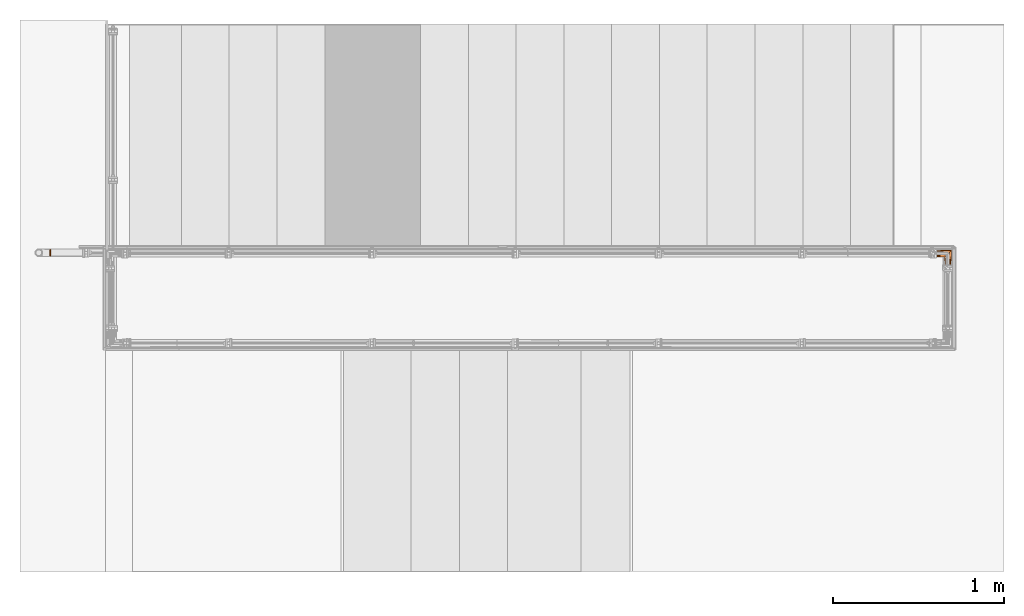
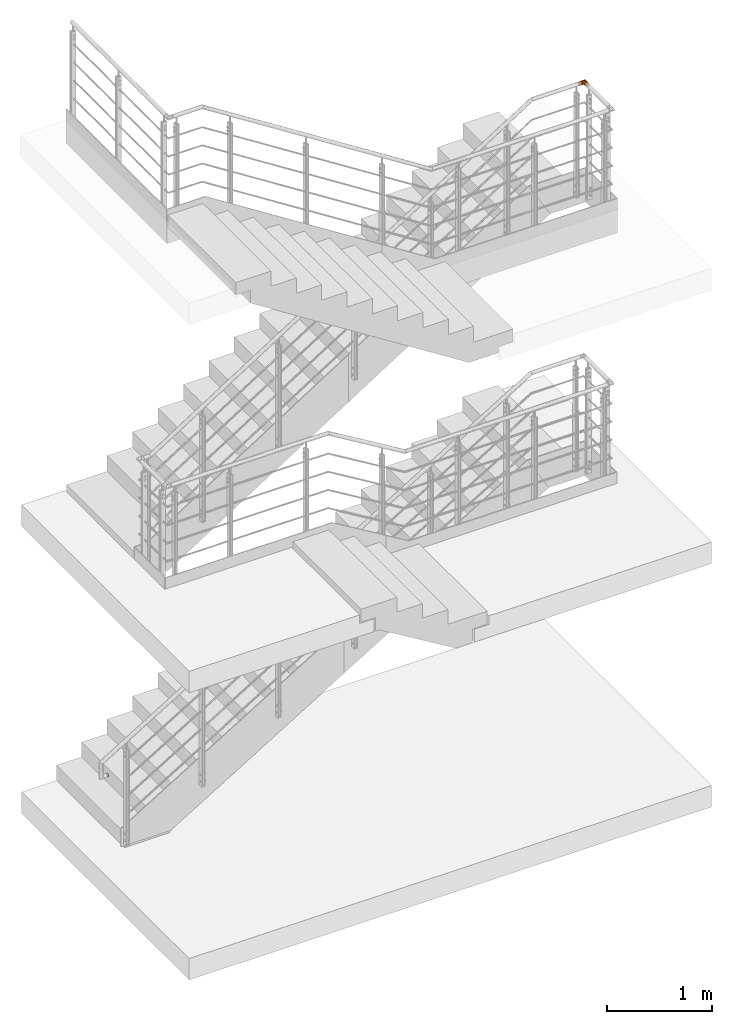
# One storey, part 97 of 98: 2 proxies.
"""IFC2X3 building model written with IfcOpenShell, lengths in millimetres."""

from ifc_helpers import new_model, entity, si_unit, converted_unit, origin_with_axes, place, context, project, spatial, faceted_brep, material, element, save


model = new_model("IFC2X3")

# Units and contexts
model_context = context("Model", 3, precision=1e-09, world=origin_with_axes())
ifc_project = project(units=[si_unit("LENGTHUNIT", "METRE", prefix="MILLI"), si_unit("AREAUNIT", "SQUARE_METRE"), si_unit("VOLUMEUNIT", "CUBIC_METRE"), converted_unit("PLANEANGLEUNIT", "DEGREE", entity("IfcPlaneAngleMeasure", 0.01745329), si_unit("PLANEANGLEUNIT", "RADIAN"), dimensions=[0, 0, 0, 0, 0, 0, 0])], contexts=[model_context])

# Site, building, storey
site_placement = place(None, origin_with_axes())
site = spatial("IfcSite", under=ifc_project, at=site_placement, Name="Maybachstra?e 2, 71563 Affalterbach", CompositionType="ELEMENT")
building_placement = place(site_placement, origin_with_axes())
building = spatial("IfcBuilding", under=site, at=building_placement, Name="Struktur 1", CompositionType="ELEMENT")
storey_placement = place(building_placement, origin_with_axes())
storey = spatial("IfcBuildingStorey", under=building, at=storey_placement, Name="Default Storey", CompositionType="ELEMENT", Elevation=0.0)

# Proxies
ifc_material = material(Name="1.4301")
proxy_1_placement = place(None, origin_with_axes())
element("IfcBuildingElementProxy", 1, at=proxy_1_placement, inside=storey, material=ifc_material, ObjectType="-", context=model_context, shape_type="Brep", body=[
    faceted_brep([(12187.232157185, -63.669869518, 7165.561275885), (12167.232157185, -63.669869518, 7165.561275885), (12167.232157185, -63.669869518, 7157.038724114), (12187.232157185, -63.669869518, 7157.038724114), (12167.232157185, -30.027927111, 7149.360170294), (12167.232157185, -36.691126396, 7144.046446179), (12167.232157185, -45.0, 7142.15), (12167.232157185, -53.308873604, 7144.046446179), (12167.232157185, -59.972072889, 7149.360170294), (12167.232157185, -59.972072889, 7173.239829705), (12167.232157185, -53.308873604, 7178.55355382), (12167.232157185, -45.0, 7180.45), (12167.232157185, -36.691126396, 7178.55355382), (12167.232157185, -30.027927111, 7173.239829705), (12167.232157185, -26.330130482, 7165.561275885), (12167.232157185, -26.330130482, 7157.038724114), (12187.232157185, -59.972072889, 7173.239829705), (12187.232157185, -30.027927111, 7173.239829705), (12187.232157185, -36.691126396, 7178.55355382), (12187.232157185, -45.0, 7180.45), (12187.232157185, -53.308873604, 7178.55355382), (12187.232157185, -59.972072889, 7149.360170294), (12187.232157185, -53.308873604, 7144.046446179), (12187.232157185, -45.0, 7142.15), (12187.232157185, -36.691126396, 7144.046446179), (12187.232157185, -30.027927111, 7149.360170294), (12187.232157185, -26.330130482, 7157.038724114), (12187.232157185, -26.330130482, 7165.561275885)], [[[0, 1, 2, 3]], [[4, 5, 6, 7, 8, 2, 1, 9, 10, 11, 12, 13, 14, 15]], [[1, 0, 16, 9]], [[17, 18, 19, 20, 16, 0, 3, 21, 22, 23, 24, 25, 26, 27]], [[3, 2, 8, 21]], [[9, 16, 20, 10]], [[21, 8, 7, 22]], [[10, 20, 19, 11]], [[22, 7, 6, 23]], [[11, 19, 18, 12]], [[23, 6, 5, 24]], [[17, 13, 12, 18]], [[13, 17, 27, 14]], [[24, 5, 4, 25]], [[14, 27, 26, 15]], [[25, 4, 15, 26]]]),
    faceted_brep([(12251.824805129, -24.207352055, 7165.435914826), (12250.618403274, -25.413753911, 7169.412888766), (12248.659312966, -27.372844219, 7173.07808894), (12246.022820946, -30.009336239, 7176.290663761), (12239.145045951, -36.887111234, 7180.886246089), (12231.032157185, -45.0, 7182.5), (12222.919268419, -53.112888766, 7180.886246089), (12216.041493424, -59.990663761, 7176.290663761), (12213.405001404, -62.627155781, 7173.07808894), (12211.445911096, -64.586246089, 7169.412888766), (12210.23950924, -65.792647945, 7165.435914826), (12209.832157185, -66.2, 7161.3), (12210.23950924, -65.792647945, 7157.164085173), (12211.445911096, -64.586246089, 7153.187111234), (12213.405001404, -62.627155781, 7149.52191106), (12216.041493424, -59.990663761, 7146.309336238), (12222.919268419, -53.112888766, 7141.71375391), (12231.032157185, -45.0, 7140.1), (12239.145045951, -36.887111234, 7141.71375391), (12246.022820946, -30.009336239, 7146.309336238), (12248.659312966, -27.372844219, 7149.52191106), (12250.618403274, -25.413753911, 7153.187111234), (12251.824805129, -24.207352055, 7157.164085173), (12252.232157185, -23.8, 7161.3), (12187.232157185, -49.407727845, 7182.036729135), (12187.232157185, -45.0, 7140.1), (12187.232157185, -57.461047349, 7178.45116028), (12187.232157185, -40.592272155, 7182.036729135), (12187.232157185, -53.622816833, 7141.932836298), (12187.232157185, -60.7546703, 7147.114431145), (12187.232157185, -65.162398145, 7154.748839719), (12187.232157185, -66.083864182, 7163.516003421), (12187.232157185, -63.35973856, 7171.9), (12187.232157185, -32.538952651, 7178.45116028), (12187.232157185, -26.64026144, 7171.9), (12187.232157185, -23.916135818, 7163.516003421), (12187.232157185, -24.837601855, 7154.748839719), (12187.232157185, -29.2453297, 7147.114431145), (12187.232157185, -36.377183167, 7141.932836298)], [[[0, 1, 2, 3, 4, 5, 6, 7, 8, 9, 10, 11, 12, 13, 14, 15, 16, 17, 18, 19, 20, 21, 22, 23]], [[6, 5, 24]], [[17, 16, 25]], [[26, 6, 24]], [[24, 5, 27]], [[18, 17, 25]], [[25, 16, 28]], [[7, 6, 26]], [[28, 29, 30, 31, 32, 26, 24, 27, 33, 34, 35, 36, 37, 38, 25]], [[5, 4, 27]], [[38, 18, 25]], [[16, 15, 28]], [[8, 7, 32]], [[32, 7, 26]], [[27, 4, 33]], [[19, 18, 38]], [[11, 10, 31]], [[28, 15, 29]], [[9, 8, 32]], [[10, 9, 31]], [[4, 3, 33]], [[37, 19, 38]], [[31, 12, 11]], [[13, 12, 30]], [[14, 13, 30]], [[15, 14, 29]], [[31, 9, 32]], [[33, 3, 34]], [[20, 19, 37]], [[30, 12, 31]], [[29, 14, 30]], [[3, 2, 34]], [[36, 20, 37]], [[2, 1, 34]], [[21, 20, 36]], [[34, 1, 35]], [[22, 21, 36]], [[35, 22, 36]], [[1, 0, 35]], [[0, 23, 35]], [[35, 23, 22]]]),
    faceted_brep([(12249.702026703, -108.8, 7157.038724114), (12249.702026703, -88.8, 7157.038724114), (12249.702026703, -88.8, 7165.561275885), (12249.702026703, -108.8, 7165.561275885), (12246.004230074, -88.8, 7173.239829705), (12246.004230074, -108.8, 7173.239829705), (12216.060084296, -88.8, 7173.239829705), (12222.723283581, -88.8, 7178.55355382), (12231.032157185, -88.8, 7180.45), (12239.341030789, -88.8, 7178.55355382), (12246.004230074, -88.8, 7149.360170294), (12239.341030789, -88.8, 7144.046446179), (12231.032157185, -88.8, 7142.15), (12222.723283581, -88.8, 7144.046446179), (12216.060084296, -88.8, 7149.360170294), (12212.362287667, -88.8, 7157.038724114), (12212.362287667, -88.8, 7165.561275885), (12246.004230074, -108.8, 7149.360170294), (12216.060084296, -108.8, 7149.360170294), (12222.723283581, -108.8, 7144.046446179), (12231.032157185, -108.8, 7142.15), (12239.341030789, -108.8, 7144.046446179), (12239.341030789, -108.8, 7178.55355382), (12231.032157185, -108.8, 7180.45), (12222.723283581, -108.8, 7178.55355382), (12216.060084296, -108.8, 7173.239829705), (12212.362287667, -108.8, 7165.561275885), (12212.362287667, -108.8, 7157.038724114)], [[[0, 1, 2, 3]], [[3, 2, 4, 5]], [[6, 7, 8, 9, 4, 2, 1, 10, 11, 12, 13, 14, 15, 16]], [[1, 0, 17, 10]], [[18, 19, 20, 21, 17, 0, 3, 5, 22, 23, 24, 25, 26, 27]], [[5, 4, 9, 22]], [[10, 17, 21, 11]], [[20, 12, 11, 21]], [[22, 9, 8, 23]], [[12, 20, 19, 13]], [[13, 19, 18, 14]], [[23, 8, 7, 24]], [[6, 25, 24, 7]], [[16, 26, 25, 6]], [[15, 27, 26, 16]], [[14, 18, 27, 15]]]),
    faceted_brep([(12231.032157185, -88.8, 7140.1), (12231.032157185, -45.0, 7140.1), (12239.654974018, -88.8, 7141.932836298), (12246.022820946, -30.009336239, 7146.309336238), (12246.786827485, -88.8, 7147.114431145), (12218.571109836, -88.8, 7178.45116028), (12212.672418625, -88.8, 7171.9), (12209.948293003, -88.8, 7163.516003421), (12210.869759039, -88.8, 7154.748839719), (12215.277486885, -88.8, 7147.114431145), (12222.409340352, -88.8, 7141.932836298), (12251.19455533, -88.8, 7154.748839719), (12252.116021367, -88.8, 7163.516003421), (12249.391895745, -88.8, 7171.9), (12243.493204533, -88.8, 7178.45116028), (12235.43988503, -88.8, 7182.036729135), (12226.62442934, -88.8, 7182.036729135), (12222.919268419, -53.112888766, 7141.71375391), (12210.23950924, -65.792647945, 7165.435914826), (12211.445911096, -64.586246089, 7169.412888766), (12213.405001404, -62.627155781, 7173.07808894), (12216.041493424, -59.990663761, 7176.290663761), (12222.919268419, -53.112888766, 7180.886246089), (12231.032157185, -45.0, 7182.5), (12239.145045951, -36.887111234, 7180.886246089), (12246.022820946, -30.009336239, 7176.290663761), (12248.659312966, -27.372844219, 7173.07808894), (12250.618403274, -25.413753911, 7169.412888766), (12251.824805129, -24.207352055, 7165.435914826), (12252.232157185, -23.8, 7161.3), (12251.824805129, -24.207352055, 7157.164085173), (12250.618403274, -25.413753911, 7153.187111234), (12248.659312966, -27.372844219, 7149.52191106), (12239.145045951, -36.887111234, 7141.71375391), (12216.041493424, -59.990663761, 7146.309336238), (12213.405001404, -62.627155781, 7149.52191106), (12211.445911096, -64.586246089, 7153.187111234), (12210.23950924, -65.792647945, 7157.164085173), (12209.832157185, -66.2, 7161.3)], [[[0, 1, 2]], [[2, 3, 4]], [[5, 6, 7, 8, 9, 10, 0, 2, 4, 11, 12, 13, 14, 15, 16]], [[17, 1, 0]], [[18, 19, 20, 21, 22, 23, 24, 25, 26, 27, 28, 29, 30, 31, 32, 3, 33, 1, 17, 34, 35, 36, 37, 38]], [[1, 33, 2]], [[33, 3, 2]], [[32, 31, 11]], [[3, 32, 4]], [[10, 17, 0]], [[24, 23, 15]], [[15, 23, 16]], [[23, 22, 16]], [[30, 29, 12]], [[31, 30, 11]], [[4, 32, 11]], [[34, 17, 10]], [[14, 24, 15]], [[12, 29, 28]], [[16, 22, 5]], [[11, 30, 12]], [[9, 34, 10]], [[25, 24, 14]], [[26, 25, 13]], [[27, 26, 13]], [[28, 27, 12]], [[22, 21, 5]], [[35, 34, 9]], [[13, 25, 14]], [[12, 27, 13]], [[5, 21, 6]], [[8, 35, 9]], [[21, 20, 6]], [[7, 37, 8]], [[36, 35, 8]], [[20, 19, 6]], [[38, 37, 7]], [[37, 36, 8]], [[18, 38, 7]], [[6, 19, 7]], [[7, 19, 18]]]),
])
proxy_2_placement = place(None, origin_with_axes())
element("IfcBuildingElementProxy", 2, at=proxy_2_placement, inside=storey, material=ifc_material, ObjectType="-", context=model_context, shape_type="Brep", body=[
    faceted_brep([(6972.280157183, -40.0, 894.99132919), (6974.280157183, -40.0, 894.99132919), (6974.280157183, -48.622816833, 896.824165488), (6972.280157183, -48.622816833, 896.824165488), (6974.280157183, -21.64026144, 926.79132919), (6974.280157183, -27.538952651, 933.342489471), (6974.280157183, -35.592272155, 936.928058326), (6974.280157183, -44.407727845, 936.928058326), (6974.280157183, -52.461047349, 933.342489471), (6974.280157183, -58.35973856, 926.79132919), (6974.280157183, -61.083864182, 918.407332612), (6974.280157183, -60.162398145, 909.64016891), (6974.280157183, -55.7546703, 902.005760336), (6974.280157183, -31.377183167, 896.824165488), (6974.280157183, -24.2453297, 902.005760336), (6974.280157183, -19.837601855, 909.64016891), (6974.280157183, -18.916135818, 918.407332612), (6972.280157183, -31.377183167, 896.824165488), (6972.280157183, -52.461047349, 933.342489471), (6972.280157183, -44.407727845, 936.928058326), (6972.280157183, -35.592272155, 936.928058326), (6972.280157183, -27.538952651, 933.342489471), (6972.280157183, -21.64026144, 926.79132919), (6972.280157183, -18.916135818, 918.407332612), (6972.280157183, -19.837601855, 909.64016891), (6972.280157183, -24.2453297, 902.005760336), (6972.280157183, -55.7546703, 902.005760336), (6972.280157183, -60.162398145, 909.64016891), (6972.280157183, -61.083864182, 918.407332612), (6972.280157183, -58.35973856, 926.79132919)], [[[0, 1, 2, 3]], [[4, 5, 6, 7, 8, 9, 10, 11, 12, 2, 1, 13, 14, 15, 16]], [[1, 0, 17, 13]], [[18, 19, 20, 21, 22, 23, 24, 25, 17, 0, 3, 26, 27, 28, 29]], [[3, 2, 12, 26]], [[13, 17, 25, 14]], [[26, 12, 11, 27]], [[14, 25, 24, 15]], [[27, 11, 10, 28]], [[15, 24, 23, 16]], [[28, 10, 9, 29]], [[16, 23, 22, 4]], [[29, 9, 8, 18]], [[4, 22, 21, 5]], [[18, 8, 7, 19]], [[19, 7, 6, 20]], [[5, 21, 20, 6]]]),
    faceted_brep([(6967.280157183, -47.809907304, 899.973889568), (6972.280157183, -47.809907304, 899.973889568), (6972.280157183, -54.072966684, 904.968512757), (6967.280157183, -54.072966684, 904.968512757), (6967.280157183, -57.548702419, 912.185952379), (6967.280157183, -57.548702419, 920.196706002), (6967.280157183, -54.072966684, 927.414145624), (6967.280157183, -47.809907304, 932.408768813), (6967.280157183, -40.0, 934.19132919), (6967.280157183, -32.190092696, 932.408768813), (6967.280157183, -25.927033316, 927.414145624), (6967.280157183, -22.451297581, 920.196706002), (6967.280157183, -22.451297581, 912.185952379), (6967.280157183, -25.927033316, 904.968512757), (6967.280157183, -32.190092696, 899.973889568), (6967.280157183, -40.0, 898.19132919), (6967.280157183, -53.167741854, 907.102293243), (6967.280157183, -47.435570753, 902.02403278), (6967.280157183, -40.0, 900.19132919), (6967.280157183, -32.564429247, 902.02403278), (6967.280157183, -26.832258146, 907.102293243), (6967.280157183, -24.116658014, 914.262742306), (6967.280157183, -25.039740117, 921.865007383), (6967.280157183, -29.390037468, 928.167501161), (6967.280157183, -36.170949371, 931.726398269), (6967.280157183, -43.829050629, 931.726398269), (6967.280157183, -50.609962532, 928.167501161), (6967.280157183, -54.960259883, 921.865007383), (6967.280157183, -55.883341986, 914.262742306), (6972.280157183, -40.0, 898.19132919), (6972.280157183, -40.0, 900.19132919), (6972.280157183, -47.435570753, 902.02403278), (6972.280157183, -32.190092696, 899.973889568), (6972.280157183, -25.927033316, 904.968512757), (6972.280157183, -22.451297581, 912.185952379), (6972.280157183, -22.451297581, 920.196706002), (6972.280157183, -25.927033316, 927.414145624), (6972.280157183, -32.190092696, 932.408768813), (6972.280157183, -40.0, 934.19132919), (6972.280157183, -47.809907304, 932.408768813), (6972.280157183, -54.072966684, 927.414145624), (6972.280157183, -57.548702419, 920.196706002), (6972.280157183, -57.548702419, 912.185952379), (6972.280157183, -32.564429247, 902.02403278), (6972.280157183, -53.167741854, 907.102293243), (6972.280157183, -55.883341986, 914.262742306), (6972.280157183, -54.960259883, 921.865007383), (6972.280157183, -50.609962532, 928.167501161), (6972.280157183, -43.829050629, 931.726398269), (6972.280157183, -36.170949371, 931.726398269), (6972.280157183, -29.390037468, 928.167501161), (6972.280157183, -25.039740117, 921.865007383), (6972.280157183, -24.116658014, 914.262742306), (6972.280157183, -26.832258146, 907.102293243)], [[[0, 1, 2, 3]], [[0, 3, 4, 5, 6, 7, 8, 9, 10, 11, 12, 13, 14, 15], [16, 17, 18, 19, 20, 21, 22, 23, 24, 25, 26, 27, 28]], [[1, 0, 15, 29]], [[30, 18, 17, 31]], [[29, 32, 33, 34, 35, 36, 37, 38, 39, 40, 41, 42, 2, 1], [43, 30, 31, 44, 45, 46, 47, 48, 49, 50, 51, 52, 53]], [[29, 15, 14, 32]], [[18, 30, 43, 19]], [[3, 2, 42, 4]], [[31, 17, 16, 44]], [[32, 14, 13, 33]], [[19, 43, 53, 20]], [[4, 42, 41, 5]], [[44, 16, 28, 45]], [[33, 13, 12, 34]], [[20, 53, 52, 21]], [[5, 41, 40, 6]], [[45, 28, 27, 46]], [[34, 12, 11, 35]], [[21, 52, 51, 22]], [[6, 40, 39, 7]], [[46, 27, 26, 47]], [[35, 11, 10, 36]], [[22, 51, 50, 23]], [[7, 39, 38, 8]], [[47, 26, 25, 48]], [[36, 10, 9, 37]], [[24, 49, 48, 25]], [[23, 50, 49, 24]], [[8, 38, 37, 9]]]),
])

save(model, "model.ifc")
